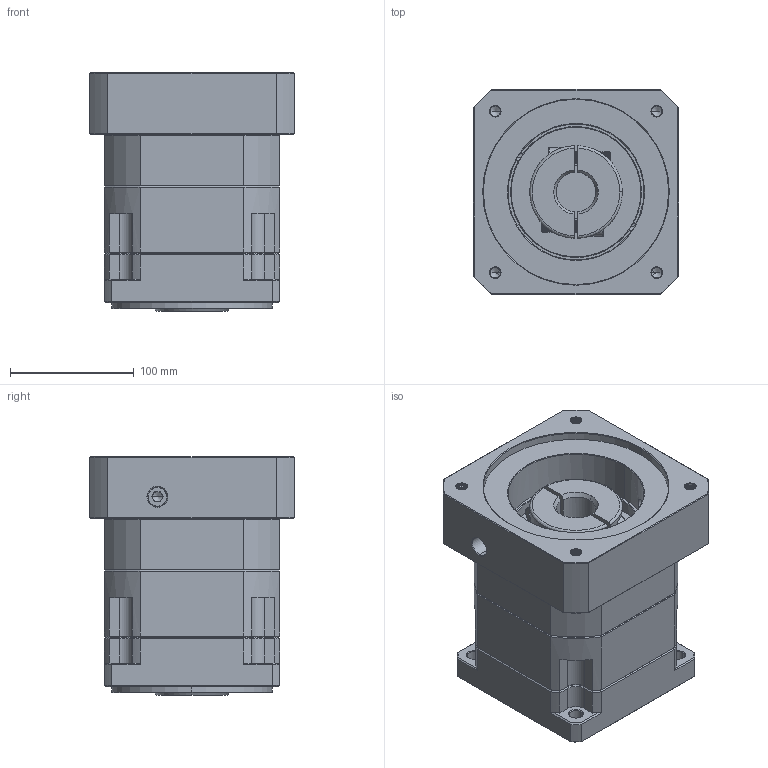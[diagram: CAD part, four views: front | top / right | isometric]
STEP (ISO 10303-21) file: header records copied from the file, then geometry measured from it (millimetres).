
FILE_DESCRIPTION (( 'STEP AP214' ), '1' );
FILE_NAME ('ZB142A-K35-L1-P2-32-150-185-M10.step', '2023-09-01T11:46:09', ( '' ), ( '' ), 'SwSTEP 2.0', 'SolidWorks 2016', '' );
FILE_SCHEMA (( 'AUTOMOTIVE_DESIGN' ));
Length unit declared in the file: millimetre
Products named in the file (1): ZB142A-K35-L1-P2-32-150-185-M10
Bounding box: 166 x 166 x 193.2 mm (x, y, z)
Volume: 3397832.3 mm3; surface area: 299228.9 mm2
Topology: 6 solids, 6 shells, 2261 faces, 6068 edges, 3910 vertices
Faces by surface type: plane 1096, bspline 404, cylinder 395, cone 346, torus 20
Entity records: 122881 total; most frequent: CARTESIAN_POINT 44501, ORIENTED_EDGE 12080, DIRECTION 9605, EDGE_CURVE 6040, VERTEX_POINT 3910, VECTOR 3847, LINE 3847, AXIS2_PLACEMENT_3D 2879
